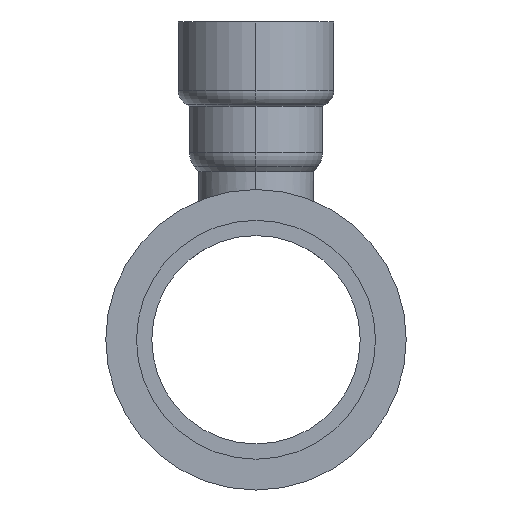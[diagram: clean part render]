
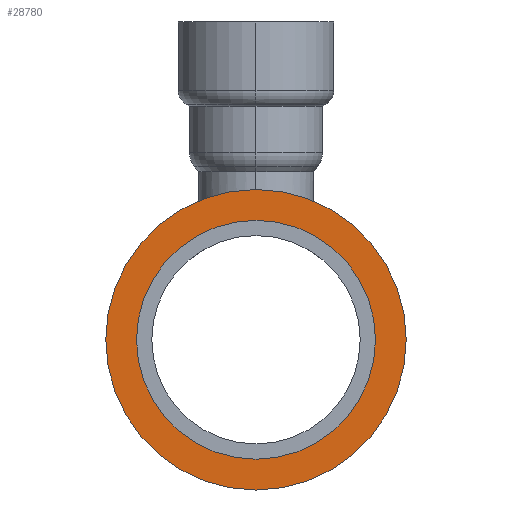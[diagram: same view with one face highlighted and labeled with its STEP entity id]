
A CAD part, left-side view. The second image highlights one B-rep face of the part: STEP entity #28780.
In plain terms, the highlighted planar face has unit normal (-1, 0, 0).
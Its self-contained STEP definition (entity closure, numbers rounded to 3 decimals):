
#28300=CARTESIAN_POINT('',(18.834,89.479,0.)
);
#28310=VERTEX_POINT('',#28300);
#28390=CARTESIAN_POINT('',(18.834,40.179,0.))
;
#28400=VERTEX_POINT('',#28390);
#28430=CARTESIAN_POINT('',(18.834,64.829,0.))
;
#28440=DIRECTION('',(1.,0.,0.));
#28450=DIRECTION('',(0.,1.,0.));
#28460=AXIS2_PLACEMENT_3D('',#28430,#28440,#28450);
#28470=CIRCLE('',#28460,24.65);
#28480=EDGE_CURVE('',#28400,#28310,#28470,.T.);
#28530=CARTESIAN_POINT('',(18.834,94.129,0.)
);
#28540=DIRECTION('',(1.,-0.,0.));
#28550=DIRECTION('',(0.,1.,0.));
#28560=AXIS2_PLACEMENT_3D('',#28530,#28540,#28550);
#28570=PLANE('',#28560);
#28580=EDGE_CURVE('',#28310,#28400,#28470,.T.);
#28590=ORIENTED_EDGE('',*,*,#28580,.T.);
#28600=ORIENTED_EDGE('',*,*,#28480,.T.);
#28610=EDGE_LOOP('',(#28600,#28590));
#28620=FACE_BOUND('',#28610,.T.);
#28630=CARTESIAN_POINT('',(18.834,64.829,0.))
;
#28640=DIRECTION('',(1.,0.,0.));
#28650=DIRECTION('',(0.,-1.,0.));
#28660=AXIS2_PLACEMENT_3D('',#28630,#28640,#28650);
#28670=CIRCLE('',#28660,31.);
#28680=CARTESIAN_POINT('',(18.834,33.829,
0.));
#28690=VERTEX_POINT('',#28680);
#28700=CARTESIAN_POINT('',(18.834,95.829,
0.));
#28710=VERTEX_POINT('',#28700);
#28720=EDGE_CURVE('',#28690,#28710,#28670,.T.);
#28730=ORIENTED_EDGE('',*,*,#28720,.F.);
#28740=EDGE_CURVE('',#28710,#28690,#28670,.T.);
#28750=ORIENTED_EDGE('',*,*,#28740,.F.);
#28760=EDGE_LOOP('',(#28750,#28730));
#28770=FACE_OUTER_BOUND('',#28760,.T.);
#28780=ADVANCED_FACE('',(#28620,#28770),#28570,.F.);
